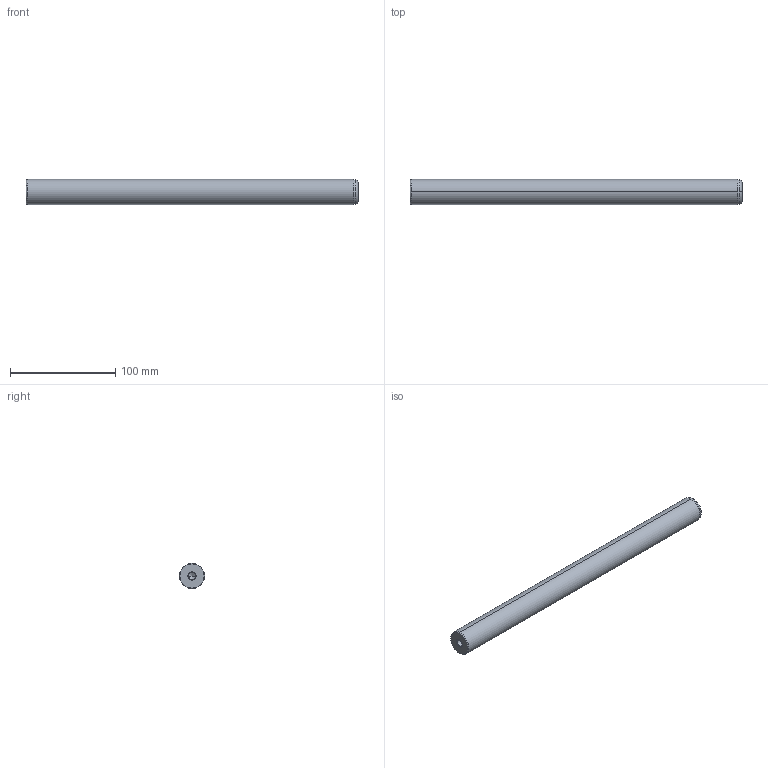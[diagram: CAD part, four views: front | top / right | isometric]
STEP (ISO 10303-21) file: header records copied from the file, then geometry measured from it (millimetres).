
FILE_DESCRIPTION(('CATIA V5 STEP Exchange'),'2;1');
FILE_NAME('C:\Users\Utente\Desktop\IO LAVORO\3D X SITO CF\X SITO\720\720-24x315.stp','2021-01-01T12:48:54+00:00',('none'),('none'),'CATIA Version 5 Release 20 GA (IN-10)','CATIA V5 STEP AP203','none');
FILE_SCHEMA(('CONFIG_CONTROL_DESIGN'));
Length unit declared in the file: millimetre
Products named in the file (1): 720-24x315
Bounding box: 315 x 24 x 24 mm (x, y, z)
Volume: 140536.8 mm3; surface area: 25490.5 mm2
Topology: 1 solids, 1 shells, 22 faces, 62 edges, 40 vertices
Faces by surface type: cone 12, cylinder 6, plane 2, torus 2
Entity records: 806 total; most frequent: CARTESIAN_POINT 229, ORIENTED_EDGE 116, DIRECTION 93, EDGE_CURVE 58, AXIS2_PLACEMENT_3D 54, VERTEX_POINT 40, CIRCLE 31, EDGE_LOOP 24
